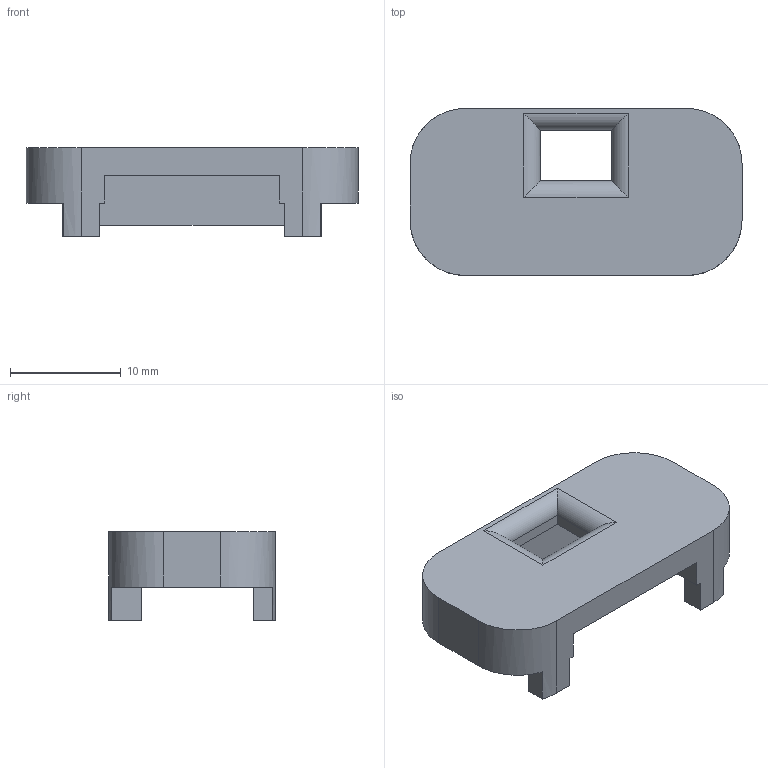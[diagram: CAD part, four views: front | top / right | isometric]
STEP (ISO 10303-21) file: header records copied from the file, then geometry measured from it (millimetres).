
FILE_DESCRIPTION(/* description */ (''),/* implementation_level */ '2;1');
FILE_NAME(/* name */ 'sensormountFP.step',/* time_stamp */ '2025-06-18T12:24:40+05:30',/* author */ (''),/* organization */ (''),/* preprocessor_version */ 'ST-DEVELOPER v20.1',/* originating_system */ 'Autodesk Translation Framework v14.10.0.0',/* authorisation */ '');
FILE_SCHEMA (('AUTOMOTIVE_DESIGN { 1 0 10303 214 3 1 1 }'));
Length unit declared in the file: millimetre
Products named in the file (1): sensormountnyt1
Bounding box: 30 x 15.09 x 8 mm (x, y, z)
Volume: 1539.9 mm3; surface area: 1557.2 mm2
Topology: 1 solids, 1 shells, 48 faces, 134 edges, 88 vertices
Faces by surface type: plane 38, cylinder 10
Entity records: 1563 total; most frequent: CARTESIAN_POINT 271, ORIENTED_EDGE 268, DIRECTION 252, EDGE_CURVE 134, LINE 114, VECTOR 114, VERTEX_POINT 88, AXIS2_PLACEMENT_3D 69
